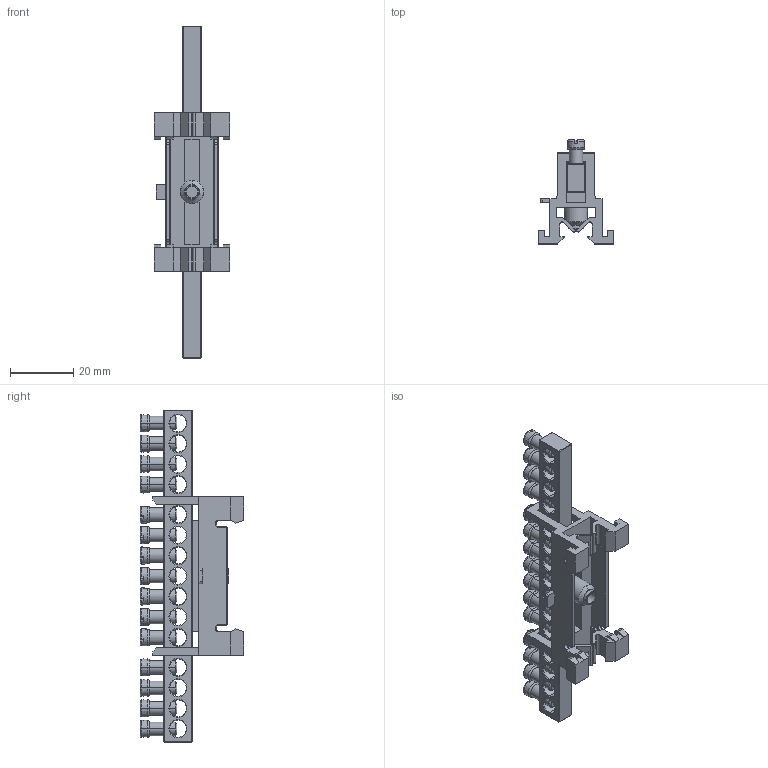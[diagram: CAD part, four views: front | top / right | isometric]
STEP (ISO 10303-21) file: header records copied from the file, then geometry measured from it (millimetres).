
FILE_DESCRIPTION (( 'STEP AP214' ), '1' );
FILE_NAME ('CS-PE15.step', '2011-08-01T09:50:31', ( 'Radek Veselý' ), ( 'Siemens and Partners' ), 'SwSTEP 2.0', 'SolidWorks 2006303', '' );
FILE_SCHEMA (( 'AUTOMOTIVE_DESIGN' ));
Length unit declared in the file: millimetre
Products named in the file (1): CS-PE15
Bounding box: 23.7 x 32.67 x 104.6 mm (x, y, z)
Volume: 10857.9 mm3; surface area: 13360.7 mm2
Topology: 17 solids, 17 shells, 937 faces, 2442 edges, 1539 vertices
Faces by surface type: plane 490, cylinder 198, torus 157, cone 92
Entity records: 40348 total; most frequent: CARTESIAN_POINT 6915, ORIENTED_EDGE 4884, DIRECTION 4750, EDGE_CURVE 2442, AXIS2_PLACEMENT_3D 1660, VERTEX_POINT 1539, VECTOR 1430, LINE 1430
